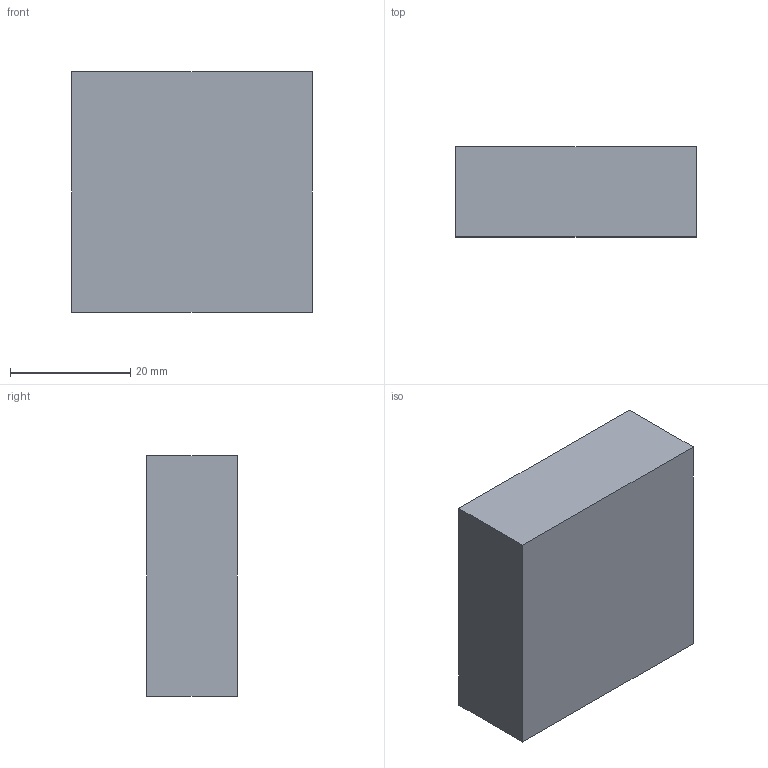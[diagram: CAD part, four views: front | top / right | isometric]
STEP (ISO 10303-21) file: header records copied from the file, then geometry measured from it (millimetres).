
FILE_DESCRIPTION(('Open CASCADE Model'),'2;1');
FILE_NAME('Open CASCADE Shape Model','2019-05-09T13:22:49',('Author'),( 'Open CASCADE'),'Open CASCADE STEP processor 6.6','Open CASCADE 6.6' ,'Unknown');
FILE_SCHEMA(('AUTOMOTIVE_DESIGN_CC2 { 1 2 10303 214 -1 1 5 4 }'));
Length unit declared in the file: millimetre
Products named in the file (1): XFlow STEP translator 1
Bounding box: 40 x 15 x 40 mm (x, y, z)
Surface area: 5600 mm2 (no closed solid volume)
Topology: 0 solids, 1 shells, 6 faces, 12 edges, 8 vertices
Faces by surface type: plane 6
Entity records: 322 total; most frequent: CARTESIAN_POINT 51, DIRECTION 50, LINE 36, VECTOR 36, ORIENTED_EDGE 24, PCURVE 24, DEFINITIONAL_REPRESENTATION 24, EDGE_CURVE 12
